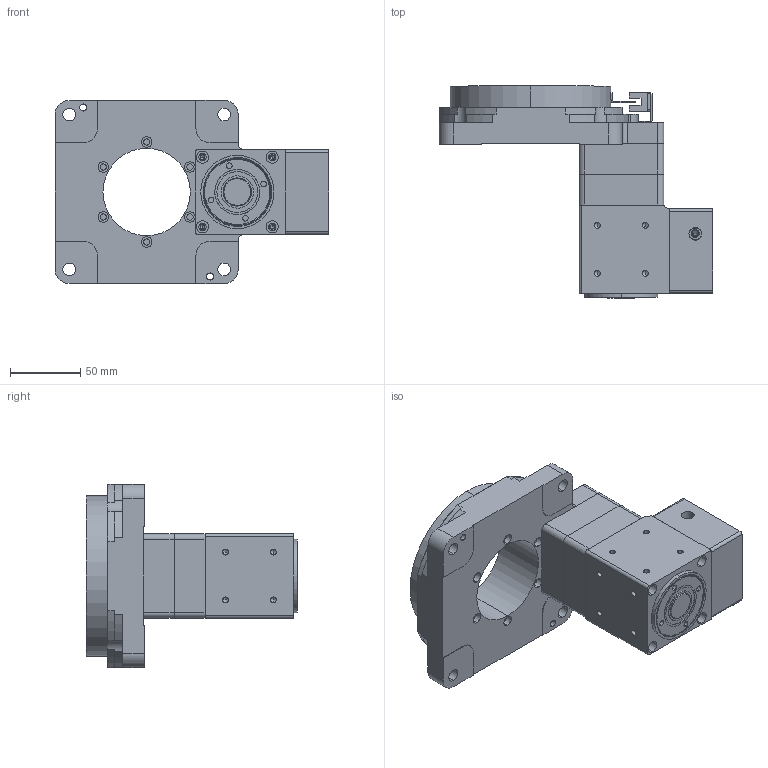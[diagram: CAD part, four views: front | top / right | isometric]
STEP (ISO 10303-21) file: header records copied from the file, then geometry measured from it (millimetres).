
FILE_DESCRIPTION(('Open CASCADE Model'),'2;1');
FILE_NAME('Open CASCADE Shape Model','2026-10-11T02:46:48',('Author'),( 'Open CASCADE'),'Open CASCADE STEP processor 7.8','Open CASCADE 7.8' ,'Unknown');
FILE_SCHEMA(('AUTOMOTIVE_DESIGN { 1 0 10303 214 1 1 1 1 }'));
Length unit declared in the file: millimetre
Products named in the file (4): NTF130-R-10-PVFD60-M5(配伺服400W 输入14-50-70-M5); NTF130-R-10-PVFD60-M5(配伺服400W 输入14-50-70-M5)-01; NTF130-R-10-PVFD60-M5(配伺服400W 输入14-50-70-M5)-02; NTF130-R-10-PVFD60-M5(配伺服400W 输入14-50-70-M5)-03
Assembly tree (3 placements, depth 2):
  NTF130-R-10-PVFD60-M5(配伺服400W 输入14-50-70-M5)
    NTF130-R-10-PVFD60-M5(配伺服400W 输入14-50-70-M5)-01
    NTF130-R-10-PVFD60-M5(配伺服400W 输入14-50-70-M5)-02
    NTF130-R-10-PVFD60-M5(配伺服400W 输入14-50-70-M5)-03
Bounding box: 194.4 x 150.5 x 130 mm (x, y, z)
Volume: 878387 mm3; surface area: 218458.8 mm2
Topology: 17 solids, 19 shells, 1979 faces, 5794 edges, 3768 vertices
Faces by surface type: plane 982, cylinder 476, bspline 304, cone 217
Entity records: 230400 total; most frequent: CARTESIAN_POINT 128096, DIRECTION 15793, ORIENTED_EDGE 11428, PCURVE 11428, DEFINITIONAL_REPRESENTATION 11428, LINE 8971, VECTOR 8971, EDGE_CURVE 5714
